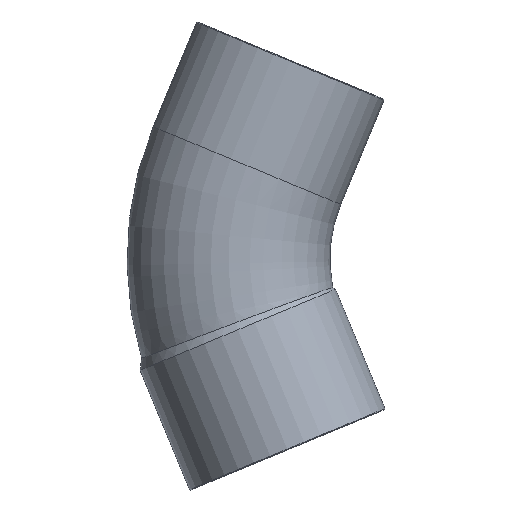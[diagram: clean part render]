
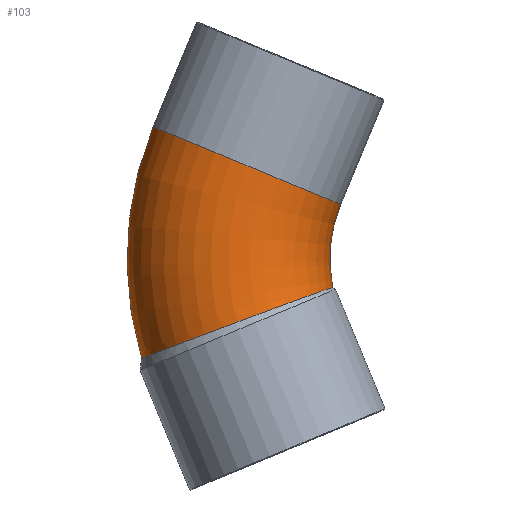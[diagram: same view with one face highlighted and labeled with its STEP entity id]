
A CAD part, front view. The second image highlights one B-rep face of the part: STEP entity #103.
In plain terms, the highlighted toroidal (fillet/blend) face has major radius 62.4 mm and minor radius 26 mm.
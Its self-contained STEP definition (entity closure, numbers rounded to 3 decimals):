
#44=CARTESIAN_POINT('',(4.435,0.,0.));
#45=DIRECTION('',(0.,1.0,0.));
#46=DIRECTION('',(-0.383,0.,0.924));
#47=AXIS2_PLACEMENT_3D('',#44,#45,#46);
#48=TOROIDAL_SURFACE('',#47,62.4,26.0);
#49=CARTESIAN_POINT('',(-80.201,0.,-25.522));
#50=VERTEX_POINT('',#49);
#51=CARTESIAN_POINT('',(-77.236,0.,33.829));
#52=VERTEX_POINT('',#51);
#53=CARTESIAN_POINT('',(4.435,0.,0.));
#54=DIRECTION('',(0.0,1.0,0.0));
#55=DIRECTION('',(0.0,0.0,1.0));
#56=AXIS2_PLACEMENT_3D('',#53,#54,#55);
#57=CIRCLE('',#56,88.4);
#58=EDGE_CURVE('',#50,#52,#57,.T.);
#59=ORIENTED_EDGE('',*,*,#58,.F.);
#60=CARTESIAN_POINT('',(-31.226,0.,-7.299));
#61=VERTEX_POINT('',#60);
#62=CARTESIAN_POINT('',(-80.201,0.,-25.522));
#63=CARTESIAN_POINT('',(-80.201,-1.914,-25.522));
#64=CARTESIAN_POINT('',(-80.003,-3.822,-25.446));
#65=CARTESIAN_POINT('',(-79.219,-7.557,-25.145));
#66=CARTESIAN_POINT('',(-78.635,-9.373,-24.92));
#67=CARTESIAN_POINT('',(-76.516,-14.166,-24.107));
#68=CARTESIAN_POINT('',(-74.615,-16.914,-23.378));
#69=CARTESIAN_POINT('',(-69.924,-21.487,-21.586));
#70=CARTESIAN_POINT('',(-67.176,-23.262,-20.54));
#71=CARTESIAN_POINT('',(-61.184,-25.592,-18.271));
#72=CARTESIAN_POINT('',(-57.995,-26.118,-17.07));
#73=CARTESIAN_POINT('',(-51.598,-25.837,-14.68));
#74=CARTESIAN_POINT('',(-48.45,-25.029,-13.514));
#75=CARTESIAN_POINT('',(-42.629,-22.181,-11.378));
#76=CARTESIAN_POINT('',(-40.007,-20.171,-10.427));
#77=CARTESIAN_POINT('',(-35.652,-15.221,-8.862));
#78=CARTESIAN_POINT('',(-33.952,-12.333,-8.259));
#79=CARTESIAN_POINT('',(-31.766,-6.247,-7.488));
#80=CARTESIAN_POINT('',(-31.226,-3.136,-7.299));
#81=CARTESIAN_POINT('',(-31.226,0.,-7.299));
#82=B_SPLINE_CURVE_WITH_KNOTS('',3,(#62,#63,#64,#65,#66,#67,#68,#69,#70,#71,#72,#73,#74,#75,#76,#77,#78,#79,#80,#81),.UNSPECIFIED.,.F.,.U.,(4,2,2,2,2,2,2,2,2,4),(-16.424,-15.849,-15.275,-14.258,-13.238,-12.213,-11.188,-10.167,-9.155,-8.213),.UNSPECIFIED.);
#83=EDGE_CURVE('',#50,#61,#82,.T.);
#84=ORIENTED_EDGE('',*,*,#83,.T.);
#85=CARTESIAN_POINT('',(-29.194,0.,13.93));
#86=VERTEX_POINT('',#85);
#87=CARTESIAN_POINT('',(4.435,0.,0.));
#88=DIRECTION('',(0.0,-1.0,0.0));
#89=DIRECTION('',(0.0,0.0,1.0));
#90=AXIS2_PLACEMENT_3D('',#87,#88,#89);
#91=CIRCLE('',#90,36.4);
#92=EDGE_CURVE('',#86,#61,#91,.T.);
#93=ORIENTED_EDGE('',*,*,#92,.F.);
#94=CARTESIAN_POINT('',(-53.215,0.,23.879));
#95=DIRECTION('',(-0.383,0.,-0.924));
#96=DIRECTION('',(-0.924,0.,0.383));
#97=AXIS2_PLACEMENT_3D('',#94,#95,#96);
#98=CIRCLE('',#97,26.);
#99=EDGE_CURVE('',#86,#52,#98,.T.);
#100=ORIENTED_EDGE('',*,*,#99,.T.);
#101=EDGE_LOOP('',(#59,#84,#93,#100));
#102=FACE_OUTER_BOUND('',#101,.T.);
#103=ADVANCED_FACE('',(#102),#48,.T.);
